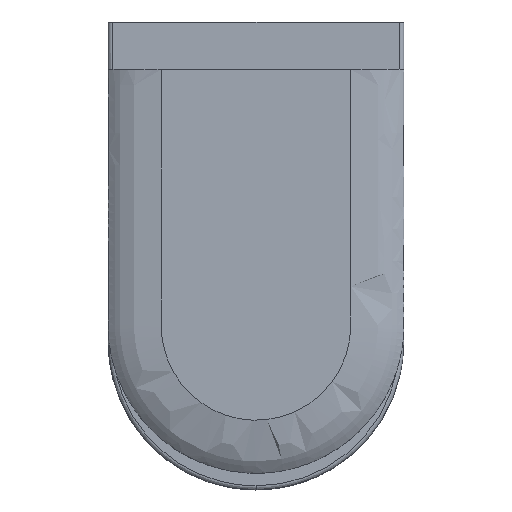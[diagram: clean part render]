
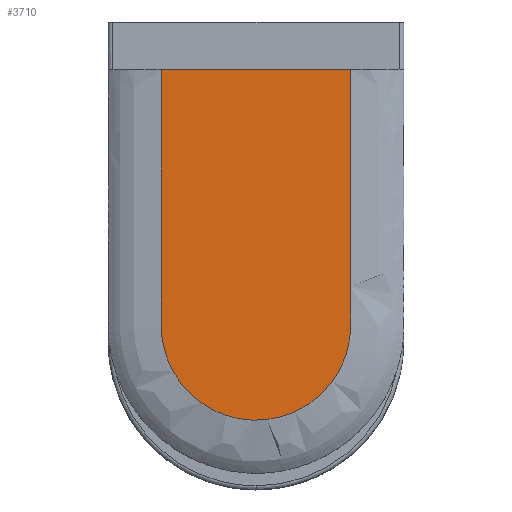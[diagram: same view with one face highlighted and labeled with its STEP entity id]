
A CAD part, top view. The second image highlights one B-rep face of the part: STEP entity #3710.
In plain terms, the highlighted planar face has unit normal (0, 0, 1).
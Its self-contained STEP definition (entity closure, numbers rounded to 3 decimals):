
#1577 = CARTESIAN_POINT ( 'NONE',  ( 115.365, 296.986, 27. ) ) ;
#1717 = CARTESIAN_POINT ( 'NONE',  ( 107.255, 137.37, 27. ) ) ;
#1859 = CARTESIAN_POINT ( 'NONE',  ( 3.625, 64.28, 27. ) ) ;
#1997 = CARTESIAN_POINT ( 'NONE',  ( -109.195, 142.611, 27. ) ) ;
#2145 = CARTESIAN_POINT ( 'NONE',  ( -115.376, 238.495, 27. ) ) ;
#2288 = CARTESIAN_POINT ( 'NONE',  ( -115.377, 452.992, 27. ) ) ;
#3710 = ADVANCED_FACE ( 'NONE', ( #29189 ), #40507, .T. ) ;
#4408 = EDGE_LOOP ( 'NONE', ( #23497, #33305 ) ) ;
#4889 = CARTESIAN_POINT ( 'NONE',  ( 115.366, 225.426, 27. ) ) ;
#5024 = CARTESIAN_POINT ( 'NONE',  ( 102.425, 126.792, 27. ) ) ;
#5164 = CARTESIAN_POINT ( 'NONE',  ( -21.649, 66.498, 27. ) ) ;
#5311 = CARTESIAN_POINT ( 'NONE',  ( -112.228, 153.052, 27. ) ) ;
#5461 = CARTESIAN_POINT ( 'NONE',  ( -115.376, 261.244, 27. ) ) ;
#5599 = CARTESIAN_POINT ( 'NONE',  ( -115.377, 485.491, 27. ) ) ;
#8064 = CARTESIAN_POINT ( 'NONE',  ( 115.364, 491.993, 27. ) ) ;
#8197 = CARTESIAN_POINT ( 'NONE',  ( 115.373, 184.514, 27. ) ) ;
#8336 = CARTESIAN_POINT ( 'NONE',  ( 95.432, 114.959, 27. ) ) ;
#8483 = CARTESIAN_POINT ( 'NONE',  ( -46.536, 73.933, 27. ) ) ;
#8626 = CARTESIAN_POINT ( 'NONE',  ( -114.266, 163.732, 27. ) ) ;
#8775 = CARTESIAN_POINT ( 'NONE',  ( -115.376, 293.743, 27. ) ) ;
#11527 = CARTESIAN_POINT ( 'NONE',  ( 115.216, 173.693, 27. ) ) ;
#11668 = CARTESIAN_POINT ( 'NONE',  ( 81.719, 98.273, 27. ) ) ;
#11807 = CARTESIAN_POINT ( 'NONE',  ( -72.966, 90.366, 27. ) ) ;
#11951 = CARTESIAN_POINT ( 'NONE',  ( -115.224, 173.66, 27. ) ) ;
#12104 = CARTESIAN_POINT ( 'NONE',  ( -115.376, 316.491, 27. ) ) ;
#13561 = LINE ( 'NONE', #35187, #15832 ) ;
#14832 = CARTESIAN_POINT ( 'NONE',  ( 114.258, 163.735, 27. ) ) ;
#14962 = CARTESIAN_POINT ( 'NONE',  ( 63.449, 83.399, 27. ) ) ;
#15106 = CARTESIAN_POINT ( 'NONE',  ( -85.675, 102.648, 27. ) ) ;
#15249 = CARTESIAN_POINT ( 'NONE',  ( -115.381, 181.33, 27. ) ) ;
#15393 = CARTESIAN_POINT ( 'NONE',  ( -115.377, 339.241, 27. ) ) ;
#15832 = VECTOR ( 'NONE', #25377, 1000. ) ;
#18141 = CARTESIAN_POINT ( 'NONE',  ( 112.221, 153.052, 27. ) ) ;
#18283 = CARTESIAN_POINT ( 'NONE',  ( 42.817, 72.664, 27. ) ) ;
#18426 = CARTESIAN_POINT ( 'NONE',  ( -96.599, 116.543, 27. ) ) ;
#18566 = CARTESIAN_POINT ( 'NONE',  ( -115.376, 202.685, 27. ) ) ;
#18712 = CARTESIAN_POINT ( 'NONE',  ( -115.377, 381.494, 27. ) ) ;
#20151 = AXIS2_PLACEMENT_3D ( 'NONE', #33989, #40376, #20893 ) ;
#20722 = CARTESIAN_POINT ( 'NONE',  ( -115.377, 491.993, 27. ) ) ;
#20893 = DIRECTION ( 'NONE',  ( 1., 0., 0. ) ) ;
#21317 = CARTESIAN_POINT ( 'NONE',  ( 115.364, 348.997, 27. ) ) ;
#21337 = VERTEX_POINT ( 'NONE', #20722 ) ;
#21451 = CARTESIAN_POINT ( 'NONE',  ( 109.188, 142.612, 27. ) ) ;
#21588 = CARTESIAN_POINT ( 'NONE',  ( 18.122, 65.651, 27. ) ) ;
#21728 = CARTESIAN_POINT ( 'NONE',  ( -106.58, 135.523, 27. ) ) ;
#21875 = CARTESIAN_POINT ( 'NONE',  ( -115.375, 228.739, 27. ) ) ;
#22017 = CARTESIAN_POINT ( 'NONE',  ( -115.377, 433.492, 27. ) ) ;
#23497 = ORIENTED_EDGE ( 'NONE', *, *, #30395, .F. ) ;
#24603 = CARTESIAN_POINT ( 'NONE',  ( 115.365, 258.017, 27. ) ) ;
#24735 = CARTESIAN_POINT ( 'NONE',  ( 105.005, 132.086, 27. ) ) ;
#24879 = CARTESIAN_POINT ( 'NONE',  ( -10.872, 64.964, 27. ) ) ;
#25028 = CARTESIAN_POINT ( 'NONE',  ( -110.834, 147.794, 27. ) ) ;
#25170 = CARTESIAN_POINT ( 'NONE',  ( -115.376, 248.24, 27. ) ) ;
#25312 = CARTESIAN_POINT ( 'NONE',  ( -115.377, 472.494, 27. ) ) ;
#25377 = DIRECTION ( 'NONE',  ( 1., 0., 0. ) ) ;
#27920 = CARTESIAN_POINT ( 'NONE',  ( 115.363, 199.702, 27. ) ) ;
#28065 = CARTESIAN_POINT ( 'NONE',  ( 99.576, 121.633, 27. ) ) ;
#28202 = CARTESIAN_POINT ( 'NONE',  ( -32.231, 69.038, 27. ) ) ;
#28347 = CARTESIAN_POINT ( 'NONE',  ( -113.373, 158.367, 27. ) ) ;
#28496 = CARTESIAN_POINT ( 'NONE',  ( -115.376, 277.491, 27. ) ) ;
#28640 = CARTESIAN_POINT ( 'NONE',  ( -115.377, 491.993, 27. ) ) ;
#29189 = FACE_OUTER_BOUND ( 'NONE', #4408, .T. ) ;
#29405 = VERTEX_POINT ( 'NONE', #42381 ) ;
#30395 = EDGE_CURVE ( 'NONE', #29405, #21337, #35160, .T. ) ;
#30718 = CARTESIAN_POINT ( 'NONE',  ( 115.364, 465.996, 27. ) ) ;
#31257 = CARTESIAN_POINT ( 'NONE',  ( 115.349, 177.148, 27. ) ) ;
#31393 = CARTESIAN_POINT ( 'NONE',  ( 89.624, 107.03, 27. ) ) ;
#31533 = CARTESIAN_POINT ( 'NONE',  ( -60.278, 81.071, 27. ) ) ;
#31684 = CARTESIAN_POINT ( 'NONE',  ( -114.905, 169.129, 27. ) ) ;
#31829 = CARTESIAN_POINT ( 'NONE',  ( -115.376, 306.742, 27. ) ) ;
#32568 = EDGE_CURVE ( 'NONE', #21337, #29405, #13561, .T. ) ;
#33305 = ORIENTED_EDGE ( 'NONE', *, *, #32568, .F. ) ;
#33989 = CARTESIAN_POINT ( 'NONE',  ( 0., 0., 27. ) ) ;
#34558 = CARTESIAN_POINT ( 'NONE',  ( 114.898, 169.12, 27. ) ) ;
#34696 = CARTESIAN_POINT ( 'NONE',  ( 72.964, 90.369, 27. ) ) ;
#34837 = CARTESIAN_POINT ( 'NONE',  ( -80.263, 96.953, 27. ) ) ;
#34978 = CARTESIAN_POINT ( 'NONE',  ( -115.356, 177.248, 27. ) ) ;
#35121 = CARTESIAN_POINT ( 'NONE',  ( -115.376, 326.245, 27. ) ) ;
#35160 = B_SPLINE_CURVE_WITH_KNOTS ( 'NONE', 3,
 ( #8064, #30718, #40933, #21317, #1577, #24603, #4889, #27920, #8197, #31257, #11527, #34558, #14832, #37828, #18141, #41068, #21451, #1717, #24735, #5024, #28065, #8336, #31393, #11668, #34696, #14962, #37961, #18283, #41208, #21588, #1859, #24879, #5164, #28202, #8483, #31533, #11807, #34837, #15106, #38099, #18426, #41351, #21728, #1997, #25028, #5311, #28347, #8626, #31684, #11951, #34978, #15249, #38243, #18566, #41489, #21875, #2145, #25170, #5461, #28496, #8775, #31829, #12104, #35121, #15393, #38386, #18712, #41626, #22017, #2288, #25312, #5599, #28640 ),
 .UNSPECIFIED., .F., .F.,
 ( 4, 1, 1, 1, 1, 1, 1, 1, 1, 1, 1, 1, 1, 1, 1, 1, 1, 1, 1, 1, 1, 1, 1, 1, 1, 1, 1, 1, 1, 1, 1, 1, 1, 1, 1, 1, 1, 1, 1, 1, 1, 1, 1, 1, 1, 1, 1, 1, 1, 1, 1, 1, 1, 1, 1, 1, 1, 1, 1, 1, 1, 1, 1, 1, 1, 1, 1, 1, 1, 1, 4 ),
 ( 0., 0.066, 0.131, 0.164, 0.197, 0.23, 0.246, 0.262, 0.266, 0.269, 0.277, 0.284, 0.291, 0.298, 0.305, 0.312, 0.319, 0.327, 0.335, 0.343, 0.35, 0.366, 0.381, 0.397, 0.412, 0.428, 0.443, 0.457, 0.471, 0.5, 0.514, 0.529, 0.543, 0.557, 0.588, 0.603, 0.619, 0.627, 0.634, 0.65, 0.665, 0.681, 0.688, 0.695, 0.702, 0.709, 0.716, 0.723, 0.731, 0.734, 0.738, 0.746, 0.754, 0.77, 0.779, 0.787, 0.795, 0.803, 0.82, 0.836, 0.844, 0.852, 0.861, 0.869, 0.885, 0.902, 0.934, 0.951, 0.967, 0.984, 1. ),
 .UNSPECIFIED. ) ;
#35187 = CARTESIAN_POINT ( 'NONE',  ( 0., 491.993, 27. ) ) ;
#37828 = CARTESIAN_POINT ( 'NONE',  ( 113.366, 158.369, 27. ) ) ;
#37961 = CARTESIAN_POINT ( 'NONE',  ( 53.272, 77.434, 27. ) ) ;
#38099 = CARTESIAN_POINT ( 'NONE',  ( -90.789, 108.611, 27. ) ) ;
#38243 = CARTESIAN_POINT ( 'NONE',  ( -115.373, 189.904, 27. ) ) ;
#38386 = CARTESIAN_POINT ( 'NONE',  ( -115.377, 355.493, 27. ) ) ;
#40376 = DIRECTION ( 'NONE',  ( 0., 0., 1. ) ) ;
#40507 = PLANE ( 'NONE',  #20151 ) ;
#40933 = CARTESIAN_POINT ( 'NONE',  ( 115.364, 413.989, 27. ) ) ;
#41068 = CARTESIAN_POINT ( 'NONE',  ( 110.828, 147.797, 27. ) ) ;
#41208 = CARTESIAN_POINT ( 'NONE',  ( 32.231, 69.04, 27. ) ) ;
#41351 = CARTESIAN_POINT ( 'NONE',  ( -102.563, 126.718, 27. ) ) ;
#41489 = CARTESIAN_POINT ( 'NONE',  ( -115.375, 215.759, 27. ) ) ;
#41626 = CARTESIAN_POINT ( 'NONE',  ( -115.377, 407.491, 27. ) ) ;
#42381 = CARTESIAN_POINT ( 'NONE',  ( 115.364, 491.993, 27. ) ) ;
